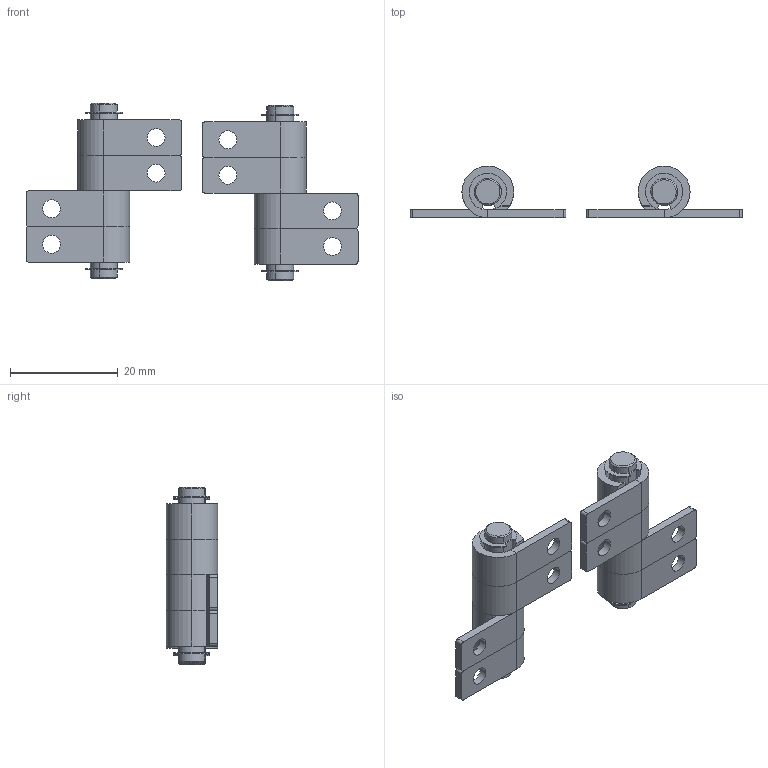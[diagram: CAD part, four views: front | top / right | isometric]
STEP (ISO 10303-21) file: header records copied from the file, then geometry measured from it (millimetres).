
FILE_DESCRIPTION (( 'STEP AP203' ), '1' );
FILE_NAME ('XG11-050-4LR.STEP', '2025-04-14T08:50:43', ( '微软用户' ), ( '微软中国' ), 'SwSTEP 2.0', 'SolidWorks 2024', '' );
FILE_SCHEMA (( 'CONFIG_CONTROL_DESIGN' ));
Length unit declared in the file: millimetre
Products named in the file (5): XG11-050-4L; XG11-050-4LR; XG11-050-4(1); XG11-050-4R; XG11-050-4(2)
Assembly tree (12 placements, depth 3):
  XG11-050-4LR
    XG11-050-4L
      XG11-050-4(1)  x4
      XG11-050-4(2)
    XG11-050-4R
      XG11-050-4(1)  x4
      XG11-050-4(2)
Bounding box: 61.62 x 9.6 x 32.89 mm (x, y, z)
Volume: 4062.9 mm3; surface area: 6110.7 mm2
Topology: 10 solids, 10 shells, 204 faces, 488 edges, 304 vertices
Faces by surface type: cylinder 104, plane 92, cone 8
Entity records: 2159 total; most frequent: DIRECTION 294, CARTESIAN_POINT 245, ORIENTED_EDGE 224, AXIS2_PLACEMENT_3D 117, EDGE_CURVE 112, VERTEX_POINT 68, LINE 60, VECTOR 60
